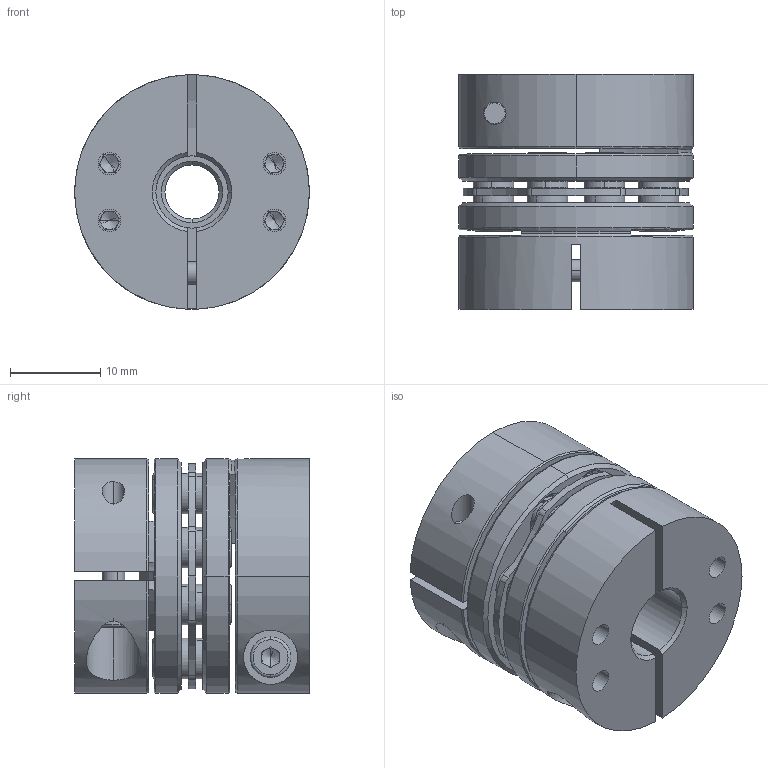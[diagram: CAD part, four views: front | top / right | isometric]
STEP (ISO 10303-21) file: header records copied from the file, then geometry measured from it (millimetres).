
FILE_DESCRIPTION (( 'STEP AP203' ), '1' );
FILE_NAME ('LDG-D26-6-8.STEP', '2021-10-28T03:25:06', ( '' ), ( '' ), 'SwSTEP 2.0', 'SolidWorks 2018', '' );
FILE_SCHEMA (( 'CONFIG_CONTROL_DESIGN' ));
Length unit declared in the file: millimetre
Products named in the file (2): 錨璃2^LDG-D26蚾饜芞1; LDG-D26-6-8
Assembly tree (1 placements, depth 2):
  LDG-D26-6-8
    錨璃2^LDG-D26蚾饜芞1
Bounding box: 26 x 26 x 26 mm (x, y, z)
Volume: 10364.1 mm3; surface area: 9093.8 mm2
Topology: 1 solids, 21 shells, 765 faces, 1872 edges, 1159 vertices
Faces by surface type: cylinder 301, plane 244, cone 200, torus 20
Entity records: 23057 total; most frequent: DIRECTION 4281, CARTESIAN_POINT 4164, ORIENTED_EDGE 3688, EDGE_CURVE 1844, AXIS2_PLACEMENT_3D 1740, VERTEX_POINT 1159, CIRCLE 971, EDGE_LOOP 909
